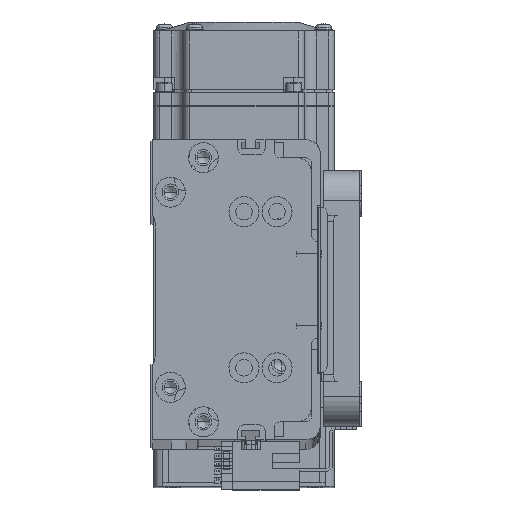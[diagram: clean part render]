
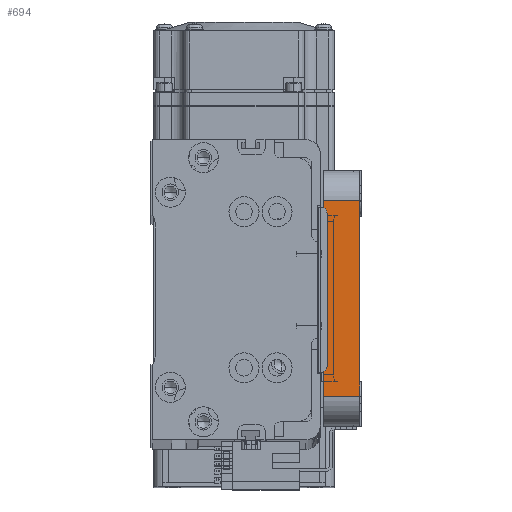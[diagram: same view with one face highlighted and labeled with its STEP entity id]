
A CAD part, top view. The second image highlights one B-rep face of the part: STEP entity #694.
In plain terms, the highlighted planar face has unit normal (0, 0, 1) as drawn and (-1, 0, 0) by its records, which use the part's own axes.
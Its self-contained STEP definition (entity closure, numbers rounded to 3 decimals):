
#670 = EDGE_CURVE ( 'NONE', #66325, #70979, #46481, .T. ) ;
#694 = ADVANCED_FACE ( 'NONE', ( #23379 ), #19127, .F. ) ;
#1554 = DIRECTION ( 'NONE',  ( 1., 0., 0. ) ) ;
#3330 = CARTESIAN_POINT ( 'NONE',  ( -55., 32.5, 12. ) ) ;
#4996 = LINE ( 'NONE', #40893, #34533 ) ;
#6815 = DIRECTION ( 'NONE',  ( 0., -1., 0. ) ) ;
#9146 = CARTESIAN_POINT ( 'NONE',  ( -55., -32.5, 12. ) ) ;
#13529 = CARTESIAN_POINT ( 'NONE',  ( -55., 32.5, 0. ) ) ;
#15925 = ORIENTED_EDGE ( 'NONE', *, *, #670, .T. ) ;
#18002 = EDGE_CURVE ( 'NONE', #52287, #70979, #4996, .T. ) ;
#18095 = EDGE_CURVE ( 'NONE', #60526, #66325, #51175, .T. ) ;
#19127 = PLANE ( 'NONE',  #69270 ) ;
#19735 = VECTOR ( 'NONE', #6815, 1000. ) ;
#23379 = FACE_OUTER_BOUND ( 'NONE', #62580, .T. ) ;
#27820 = CARTESIAN_POINT ( 'NONE',  ( -55., 32.5, 12. ) ) ;
#30079 = ORIENTED_EDGE ( 'NONE', *, *, #18002, .F. ) ;
#30751 = ORIENTED_EDGE ( 'NONE', *, *, #18095, .T. ) ;
#33743 = DIRECTION ( 'NONE',  ( 0., 0., -1. ) ) ;
#34533 = VECTOR ( 'NONE', #76188, 1000. ) ;
#34881 = ORIENTED_EDGE ( 'NONE', *, *, #71582, .T. ) ;
#40893 = CARTESIAN_POINT ( 'NONE',  ( -55., -42.5, 12. ) ) ;
#42913 = DIRECTION ( 'NONE',  ( 0., 0., -1. ) ) ;
#46481 = LINE ( 'NONE', #9146, #75987 ) ;
#48225 = LINE ( 'NONE', #27820, #62070 ) ;
#51175 = LINE ( 'NONE', #54037, #19735 ) ;
#52287 = VERTEX_POINT ( 'NONE', #3330 ) ;
#54037 = CARTESIAN_POINT ( 'NONE',  ( -55., -42.5, 0. ) ) ;
#56180 = CARTESIAN_POINT ( 'NONE',  ( -55., -32.5, 0. ) ) ;
#56400 = DIRECTION ( 'NONE',  ( 0., 0., 1. ) ) ;
#60526 = VERTEX_POINT ( 'NONE', #13529 ) ;
#62070 = VECTOR ( 'NONE', #33743, 1000. ) ;
#62580 = EDGE_LOOP ( 'NONE', ( #30751, #15925, #30079, #34881 ) ) ;
#66325 = VERTEX_POINT ( 'NONE', #56180 ) ;
#66400 = CARTESIAN_POINT ( 'NONE',  ( -55., -42.5, 12. ) ) ;
#69270 = AXIS2_PLACEMENT_3D ( 'NONE', #66400, #1554, #42913 ) ;
#69459 = CARTESIAN_POINT ( 'NONE',  ( -55., -32.5, 12. ) ) ;
#70979 = VERTEX_POINT ( 'NONE', #69459 ) ;
#71582 = EDGE_CURVE ( 'NONE', #52287, #60526, #48225, .T. ) ;
#75987 = VECTOR ( 'NONE', #56400, 1000. ) ;
#76188 = DIRECTION ( 'NONE',  ( 0., -1., 0. ) ) ;
